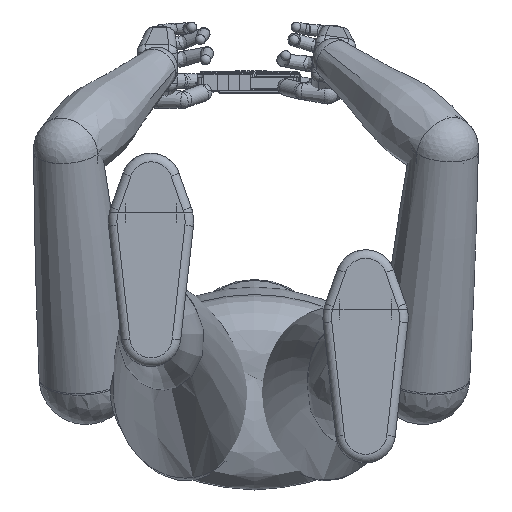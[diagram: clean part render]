
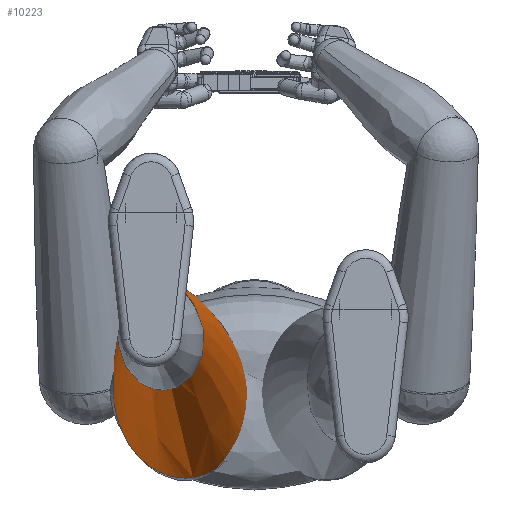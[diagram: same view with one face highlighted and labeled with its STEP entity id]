
A CAD part, front view. The second image highlights one B-rep face of the part: STEP entity #10223.
In plain terms, the highlighted free-form (B-spline) face has degree [3, 3] with [23, 4] control points.
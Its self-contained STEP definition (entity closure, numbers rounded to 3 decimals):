
#2238=ELLIPSE($,#10937,55.,45.);
#2239=ELLIPSE($,#10938,100.,80.);
#2931=B_SPLINE_SURFACE_WITH_KNOTS($,3,3,((#17711,#17712,#17713,#17714),
(#17715,#17716,#17717,#17718),(#17719,#17720,#17721,#17722),(#17723,#17724,
#17725,#17726),(#17727,#17728,#17729,#17730),(#17731,#17732,#17733,#17734),
(#17735,#17736,#17737,#17738),(#17739,#17740,#17741,#17742),(#17743,#17744,
#17745,#17746),(#17747,#17748,#17749,#17750),(#17751,#17752,#17753,#17754),
(#17755,#17756,#17757,#17758),(#17759,#17760,#17761,#17762),(#17763,#17764,
#17765,#17766),(#17767,#17768,#17769,#17770),(#17771,#17772,#17773,#17774),
(#17775,#17776,#17777,#17778),(#17779,#17780,#17781,#17782),(#17783,#17784,
#17785,#17786),(#17787,#17788,#17789,#17790),(#17791,#17792,#17793,#17794),
(#17795,#17796,#17797,#17798),(#17799,#17800,#17801,#17802)),
 .UNSPECIFIED.,.T.,.F.,.F.,(4,1,1,1,1,1,1,1,1,1,1,1,1,1,1,1,1,1,1,1,4),
(4,4),(0.,0.071,0.143,0.19,
0.238,0.286,0.333,0.381,
0.429,0.476,0.524,0.571,
0.619,0.667,0.714,0.75,0.786,
0.821,0.857,0.929,1.),(0.,1.),
 .UNSPECIFIED.);
#2985=B_SPLINE_CURVE_WITH_KNOTS($,3,(#17803,#17804,#17805,#17806,#17807,
#17808),.UNSPECIFIED.,.F.,.F.,(4,2,4),(0.,0.638,1.),
 .UNSPECIFIED.);
#3086=FACE_OUTER_BOUND($,#3704,.T.);
#3704=EDGE_LOOP($,(#7303,#7304,#7305,#7306));
#4817=VERTEX_POINT($,#17593);
#4819=VERTEX_POINT($,#17704);
#5784=EDGE_CURVE($,#4817,#4817,#2238,.T.);
#5786=EDGE_CURVE($,#4819,#4819,#2239,.T.);
#5788=EDGE_CURVE($,#4819,#4817,#2985,.T.);
#7303=ORIENTED_EDGE($,*,*,#5786,.T.);
#7304=ORIENTED_EDGE($,*,*,#5788,.T.);
#7305=ORIENTED_EDGE($,*,*,#5784,.F.);
#7306=ORIENTED_EDGE($,*,*,#5788,.F.);
#10223=ADVANCED_FACE($,(#3086),#2931,.T.);
#10937=AXIS2_PLACEMENT_3D($,#17594,#12112,#12113);
#10938=AXIS2_PLACEMENT_3D($,#17705,#12114,#12115);
#12112=DIRECTION('center_axis',(0.,-1.,0.));
#12113=DIRECTION('ref_axis',(0.,0.,1.));
#12114=DIRECTION('center_axis',(0.,-1.,0.));
#12115=DIRECTION('ref_axis',(0.,0.,1.));
#17593=CARTESIAN_POINT('',(0.,-360.,-50.));
#17594=CARTESIAN_POINT('Origin',(0.,-360.,5.));
#17704=CARTESIAN_POINT('',(0.,0.,-100.));
#17705=CARTESIAN_POINT('Origin',(0.,0.,0.));
#17711=CARTESIAN_POINT('Ctrl Pts',(0.,0.,-100.005));
#17712=CARTESIAN_POINT('Ctrl Pts',(0.,-120.418,
-78.869));
#17713=CARTESIAN_POINT('Ctrl Pts',(0.,-240.418,
-62.202));
#17714=CARTESIAN_POINT('Ctrl Pts',(0.,-360.,
-50.003));
#17715=CARTESIAN_POINT('Ctrl Pts',(11.967,0.,-100.005));
#17716=CARTESIAN_POINT('Ctrl Pts',(10.726,-120.418,-78.869));
#17717=CARTESIAN_POINT('Ctrl Pts',(8.98,-240.418,-62.202));
#17718=CARTESIAN_POINT('Ctrl Pts',(6.731,-360.,-50.003));
#17719=CARTESIAN_POINT('Ctrl Pts',(35.901,0.,-93.18));
#17720=CARTESIAN_POINT('Ctrl Pts',(32.177,-120.418,-72.702));
#17721=CARTESIAN_POINT('Ctrl Pts',(26.941,-240.418,-57.059));
#17722=CARTESIAN_POINT('Ctrl Pts',(20.194,-360.,-46.249));
#17723=CARTESIAN_POINT('Ctrl Pts',(61.479,0.,-67.664));
#17724=CARTESIAN_POINT('Ctrl Pts',(55.101,-120.418,-49.646));
#17725=CARTESIAN_POINT('Ctrl Pts',(46.136,-240.418,-37.83));
#17726=CARTESIAN_POINT('Ctrl Pts',(34.582,-360.,-32.215));
#17727=CARTESIAN_POINT('Ctrl Pts',(75.589,0.,-37.081));
#17728=CARTESIAN_POINT('Ctrl Pts',(67.748,-120.418,-22.011));
#17729=CARTESIAN_POINT('Ctrl Pts',(56.723,-240.418,-14.781));
#17730=CARTESIAN_POINT('Ctrl Pts',(42.519,-360.,-15.394));
#17731=CARTESIAN_POINT('Ctrl Pts',(80.977,0.,-7.587));
#17732=CARTESIAN_POINT('Ctrl Pts',(72.576,-120.418,4.641));
#17733=CARTESIAN_POINT('Ctrl Pts',(60.768,-240.418,7.445));
#17734=CARTESIAN_POINT('Ctrl Pts',(45.549,-360.,0.827));
#17735=CARTESIAN_POINT('Ctrl Pts',(79.166,0.,22.588));
#17736=CARTESIAN_POINT('Ctrl Pts',(70.953,-120.418,31.906));
#17737=CARTESIAN_POINT('Ctrl Pts',(59.408,-240.418,30.185));
#17738=CARTESIAN_POINT('Ctrl Pts',(44.531,-360.,17.423));
#17739=CARTESIAN_POINT('Ctrl Pts',(70.325,0.,50.753));
#17740=CARTESIAN_POINT('Ctrl Pts',(63.03,-120.418,57.357));
#17741=CARTESIAN_POINT('Ctrl Pts',(52.774,-240.418,51.41));
#17742=CARTESIAN_POINT('Ctrl Pts',(39.558,-360.,32.914));
#17743=CARTESIAN_POINT('Ctrl Pts',(55.231,0.,74.406));
#17744=CARTESIAN_POINT('Ctrl Pts',(49.501,-120.418,78.729));
#17745=CARTESIAN_POINT('Ctrl Pts',(41.447,-240.418,69.236));
#17746=CARTESIAN_POINT('Ctrl Pts',(31.067,-360.,45.923));
#17747=CARTESIAN_POINT('Ctrl Pts',(35.234,0.,91.454));
#17748=CARTESIAN_POINT('Ctrl Pts',(31.579,-120.418,94.135));
#17749=CARTESIAN_POINT('Ctrl Pts',(26.44,-240.418,82.082));
#17750=CARTESIAN_POINT('Ctrl Pts',(19.819,-360.,55.3));
#17751=CARTESIAN_POINT('Ctrl Pts',(12.102,0.,100.368));
#17752=CARTESIAN_POINT('Ctrl Pts',(10.847,-120.418,102.189));
#17753=CARTESIAN_POINT('Ctrl Pts',(9.082,-240.418,88.801));
#17754=CARTESIAN_POINT('Ctrl Pts',(6.808,-360.,60.202));
#17755=CARTESIAN_POINT('Ctrl Pts',(-12.103,0.,100.372));
#17756=CARTESIAN_POINT('Ctrl Pts',(-10.847,-120.418,
102.193));
#17757=CARTESIAN_POINT('Ctrl Pts',(-9.082,-240.418,
88.803));
#17758=CARTESIAN_POINT('Ctrl Pts',(-6.808,-360.,60.205));
#17759=CARTESIAN_POINT('Ctrl Pts',(-35.233,0.,91.452));
#17760=CARTESIAN_POINT('Ctrl Pts',(-31.578,-120.418,
94.132));
#17761=CARTESIAN_POINT('Ctrl Pts',(-26.44,-240.418,
82.081));
#17762=CARTESIAN_POINT('Ctrl Pts',(-19.818,-360.,55.298));
#17763=CARTESIAN_POINT('Ctrl Pts',(-55.233,0.,74.409));
#17764=CARTESIAN_POINT('Ctrl Pts',(-49.503,-120.418,
78.732));
#17765=CARTESIAN_POINT('Ctrl Pts',(-41.448,-240.418,
69.237));
#17766=CARTESIAN_POINT('Ctrl Pts',(-31.069,-360.,45.925));
#17767=CARTESIAN_POINT('Ctrl Pts',(-70.323,0.,50.751));
#17768=CARTESIAN_POINT('Ctrl Pts',(-63.027,-120.418,57.355));
#17769=CARTESIAN_POINT('Ctrl Pts',(-52.772,-240.418,
51.409));
#17770=CARTESIAN_POINT('Ctrl Pts',(-39.557,-360.,32.913));
#17771=CARTESIAN_POINT('Ctrl Pts',(-78.431,0.,24.934));
#17772=CARTESIAN_POINT('Ctrl Pts',(-70.294,-120.418,
34.026));
#17773=CARTESIAN_POINT('Ctrl Pts',(-58.856,-240.418,
31.953));
#17774=CARTESIAN_POINT('Ctrl Pts',(-44.117,-360.,18.714));
#17775=CARTESIAN_POINT('Ctrl Pts',(-80.673,0.,0.));
#17776=CARTESIAN_POINT('Ctrl Pts',(-72.305,-120.418,
11.496));
#17777=CARTESIAN_POINT('Ctrl Pts',(-60.539,-240.418,
13.163));
#17778=CARTESIAN_POINT('Ctrl Pts',(-45.379,-360.,5.));
#17779=CARTESIAN_POINT('Ctrl Pts',(-78.654,0.,-22.441));
#17780=CARTESIAN_POINT('Ctrl Pts',(-70.495,-120.418,
-8.782));
#17781=CARTESIAN_POINT('Ctrl Pts',(-59.025,-240.418,
-3.75));
#17782=CARTESIAN_POINT('Ctrl Pts',(-44.243,-360.,-7.343));
#17783=CARTESIAN_POINT('Ctrl Pts',(-72.682,0.,-43.751));
#17784=CARTESIAN_POINT('Ctrl Pts',(-65.143,-120.418,
-28.038));
#17785=CARTESIAN_POINT('Ctrl Pts',(-54.542,-240.418,
-19.808));
#17786=CARTESIAN_POINT('Ctrl Pts',(-40.884,-360.,-19.063));
#17787=CARTESIAN_POINT('Ctrl Pts',(-59.881,0.,-69.26));
#17788=CARTESIAN_POINT('Ctrl Pts',(-53.669,-120.418,
-51.088));
#17789=CARTESIAN_POINT('Ctrl Pts',(-44.937,-240.418,
-39.032));
#17790=CARTESIAN_POINT('Ctrl Pts',(-33.683,-360.,-33.093));
#17791=CARTESIAN_POINT('Ctrl Pts',(-35.9,0.,-93.18));
#17792=CARTESIAN_POINT('Ctrl Pts',(-32.176,-120.418,
-72.702));
#17793=CARTESIAN_POINT('Ctrl Pts',(-26.94,-240.418,-57.059));
#17794=CARTESIAN_POINT('Ctrl Pts',(-20.194,-360.,-46.249));
#17795=CARTESIAN_POINT('Ctrl Pts',(-11.967,0.,-100.005));
#17796=CARTESIAN_POINT('Ctrl Pts',(-10.725,-120.418,
-78.869));
#17797=CARTESIAN_POINT('Ctrl Pts',(-8.98,-240.418,
-62.202));
#17798=CARTESIAN_POINT('Ctrl Pts',(-6.731,-360.,
-50.003));
#17799=CARTESIAN_POINT('Ctrl Pts',(0.,0.,-100.005));
#17800=CARTESIAN_POINT('Ctrl Pts',(0.,-120.418,
-78.869));
#17801=CARTESIAN_POINT('Ctrl Pts',(0.,-240.418,
-62.202));
#17802=CARTESIAN_POINT('Ctrl Pts',(0.,-360.,
-50.003));
#17803=CARTESIAN_POINT('Ctrl Pts',(0.,0.,-100.));
#17804=CARTESIAN_POINT('Ctrl Pts',(0.,-76.837,
-86.514));
#17805=CARTESIAN_POINT('Ctrl Pts',(0.,-153.504,
-74.847));
#17806=CARTESIAN_POINT('Ctrl Pts',(0.,-273.388,
-59.415));
#17807=CARTESIAN_POINT('Ctrl Pts',(0.,-316.721,
-54.415));
#17808=CARTESIAN_POINT('Ctrl Pts',(0.,-360.,-50.));
